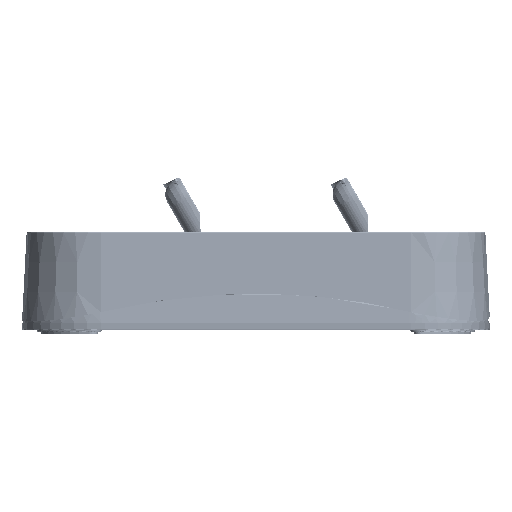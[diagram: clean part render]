
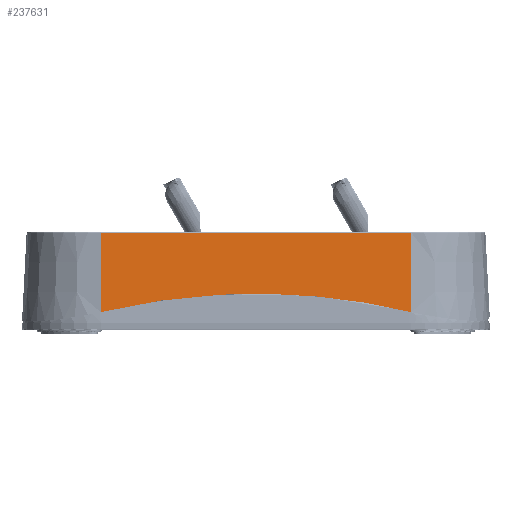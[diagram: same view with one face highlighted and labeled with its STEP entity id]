
A CAD part, left-side view. The second image highlights one B-rep face of the part: STEP entity #237631.
In plain terms, the highlighted planar face has unit normal (-0.999, 0, 0.052).
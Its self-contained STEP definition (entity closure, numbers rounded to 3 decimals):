
#76155=DIRECTION('',(0.052,0.,0.999));
#76156=VECTOR('',#76155,49.799);
#76157=CARTESIAN_POINT('',(-214.046,85.,
71.866));
#76158=LINE('',#76157,#76156);
#76167=CARTESIAN_POINT('',(-214.046,-110.013,
71.863));
#76180=DIRECTION('',(-0.052,0.,-0.999));
#76181=VECTOR('',#76180,49.802);
#76182=CARTESIAN_POINT('',(-211.44,-110.,121.597));
#76183=LINE('',#76182,#76181);
#89916=DIRECTION('',(0.,-1.,0.));
#89917=VECTOR('',#89916,195.);
#89918=CARTESIAN_POINT('',(-211.44,85.,
121.597));
#89919=LINE('',#89918,#89917);
#193501=CARTESIAN_POINT('',(-214.046,-110.013,
71.863));
#193502=CARTESIAN_POINT('',(-213.885,-97.218,
74.944));
#193503=CARTESIAN_POINT('',(-213.627,-71.45,
79.867));
#193504=CARTESIAN_POINT('',(-213.432,-32.199,
83.587));
#193505=CARTESIAN_POINT('',(-213.432,7.201,
83.588));
#193506=CARTESIAN_POINT('',(-213.627,46.457,
79.866));
#193507=CARTESIAN_POINT('',(-213.885,72.206,
74.945));
#193508=CARTESIAN_POINT('',(-214.046,85.,
71.866));
#203910=VERTEX_POINT('',#76167);
#203917=CARTESIAN_POINT('',(-211.44,-110.,121.597));
#203918=VERTEX_POINT('',#203917);
#203919=CARTESIAN_POINT('',(-211.44,85.,
121.597));
#203920=VERTEX_POINT('',#203919);
#203921=CARTESIAN_POINT('',(-214.046,85.,
71.866));
#203922=VERTEX_POINT('',#203921);
#237617=CARTESIAN_POINT('',(-214.373,-130.7,65.634));
#237618=DIRECTION('',(-0.999,0.,0.052));
#237619=DIRECTION('',(-0.052,0.,
-0.999));
#237620=AXIS2_PLACEMENT_3D('',#237617,#237618,#237619);
#237621=PLANE('',#237620);
#237623=ORIENTED_EDGE('',*,*,#237622,.T.);
#237625=ORIENTED_EDGE('',*,*,#237624,.T.);
#237626=ORIENTED_EDGE('',*,*,#237608,.T.);
#237628=ORIENTED_EDGE('',*,*,#237627,.T.);
#237629=EDGE_LOOP('',(#237623,#237625,#237626,#237628));
#237630=FACE_OUTER_BOUND('',#237629,.F.);
#237631=ADVANCED_FACE('',(#237630),#237621,.T.);
#193509=B_SPLINE_CURVE_WITH_KNOTS('',3,(#193501,#193502,#193503,#193504,#193505,
#193506,#193507,#193508),.UNSPECIFIED.,.F.,.F.,(4,1,1,1,1,4),(0.,0.2,0.4,
0.6,0.8,1.),.UNSPECIFIED.);
#237608=EDGE_CURVE('',#203922,#203920,#76158,.T.);
#237622=EDGE_CURVE('',#203918,#203910,#76183,.T.);
#237624=EDGE_CURVE('',#203910,#203922,#193509,.T.);
#237627=EDGE_CURVE('',#203920,#203918,#89919,.T.);
